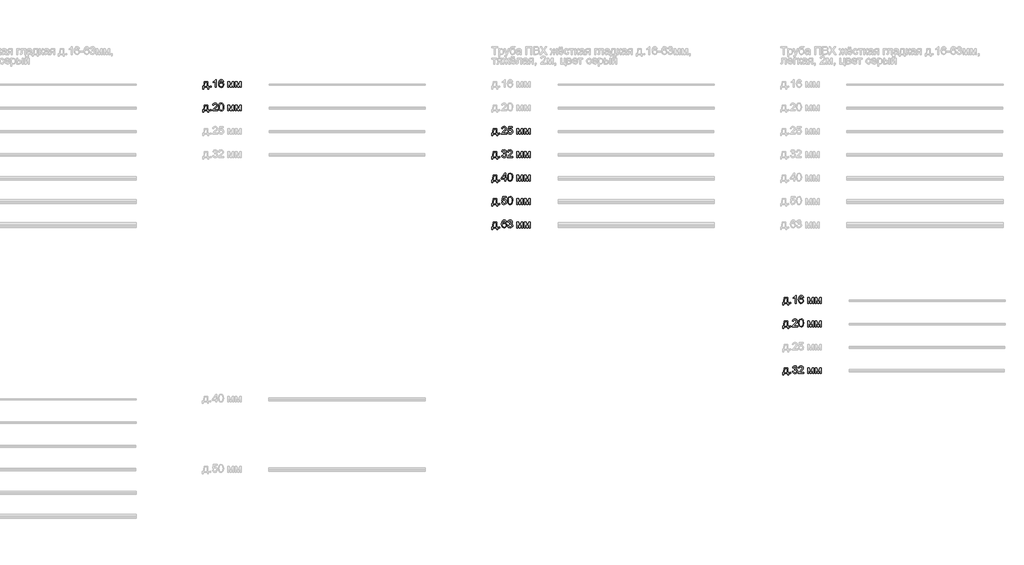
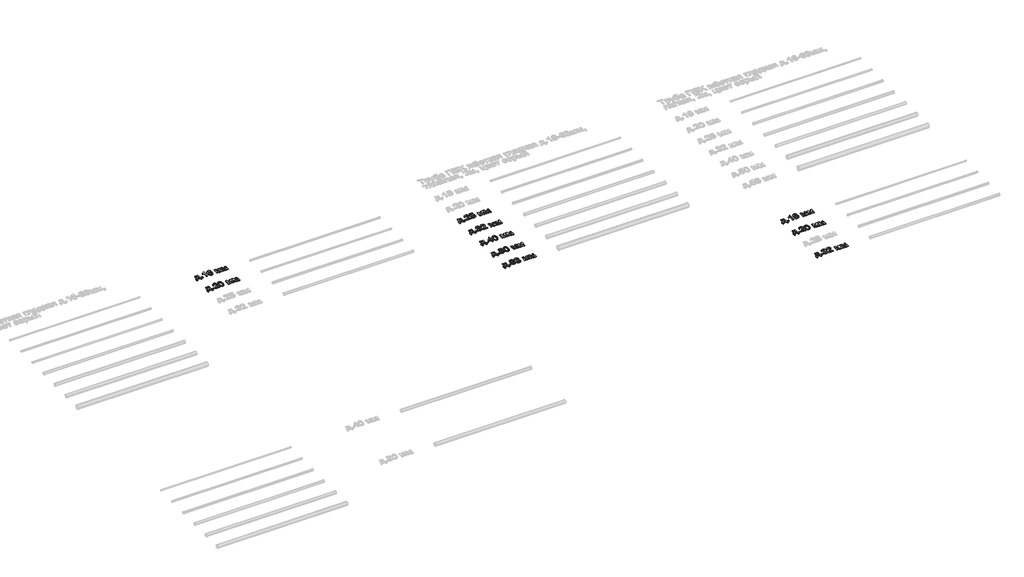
# One storey, part 94 of 98: 10 proxies.
"""IFC4 building model written with IfcOpenShell, lengths in millimetres."""

from ifc_helpers import new_model, si_unit, origin, origin_with_axes, place, context, project, spatial, polyline, outline, extrude, element, save

model = new_model("IFC4")

# Units and contexts
model_context = context("Model", 3, world=origin())
ifc_project = project(units=[si_unit("LENGTHUNIT", "METRE", prefix="MILLI")], contexts=[model_context])

# Site, building, storey
site = spatial("IfcSite", under=ifc_project)
building = spatial("IfcBuilding", under=site)
storey = spatial("IfcBuildingStorey", under=building, Name="Этаж 01", Elevation=0.0)

# Proxies
placement = place(None, origin())
element("IfcBuildingElementProxy", 1, Name="100", ObjectType="100", at=placement, inside=storey, context=model_context, shape_type="SweptSolid", body=[
    extrude(outline(polyline([(7373.0141865, -3563.7647458), (7420.1030819, -3563.7647458), (7420.1030819, -3624.9803098), (7429.520861, -3624.9803098), (7429.520861, -3657.9425366), (7416.9638222, -3657.9425366), (7416.9638222, -3637.5373486), (7365.1660373, -3637.5373486), (7365.1660373, -3657.9425366), (7352.6089985, -3657.9425366), (7352.6089985, -3624.9803098), (7360.4571478, -3624.9803098), (7370.1569697, -3601.031192), (7373.0141865, -3563.7647458)]), holes=[polyline([(7384.0015955, -3576.3217846), (7381.0585395, -3604.9307411), (7374.5838164, -3624.9803098), (7407.5460431, -3624.9803098), (7407.5460431, -3576.3217846), (7384.0015955, -3576.3217846)])]), origin_with_axes(), (0.0, 0.0, 1.0), 10.0),
    extrude(outline(polyline([(7446.7867893, -3637.5373486), (7446.7867893, -3624.9803098), (7459.3438281, -3624.9803098), (7459.3438281, -3637.5373486), (7446.7867893, -3637.5373486)])), origin_with_axes(), (0.0, 0.0, 1.0), 10.0),
    extrude(outline(polyline([(7526.8379114, -3637.5373486), (7514.2808727, -3637.5373486), (7514.2808727, -3559.25206), (7502.3860215, -3567.7256087), (7489.1667951, -3574.0654417), (7489.1667951, -3562.195116), (7507.5731576, -3550.4474176), (7518.7445076, -3537.0810385), (7526.8379114, -3537.0810385), (7526.8379114, -3637.5373486)])), origin_with_axes(), (0.0, 0.0, 1.0), 10.0),
    extrude(outline(polyline([(7621.0157022, -3563.7647458), (7608.4586634, -3565.3343757), (7603.700723, -3554.8620016), (7591.1191587, -3549.6380772), (7579.7883933, -3552.6792351), (7571.2167428, -3564.0958396), (7567.6482874, -3586.4753277), (7578.7215355, -3576.4566747), (7592.4435339, -3573.1825249), (7604.0440795, -3575.4204737), (7613.7806896, -3582.1343201), (7620.3841715, -3592.3920964), (7622.5853321, -3605.2618349), (7618.4405282, -3622.5890769), (7607.0361864, -3634.85181), (7590.5795985, -3639.1069785), (7576.3333682, -3636.2865498), (7564.9872743, -3627.8252639), (7557.5652551, -3612.8892549), (7555.0912487, -3590.644657), (7557.8381009, -3565.6348127), (7566.0786576, -3548.5344312), (7577.3297153, -3539.9443867), (7591.9039737, -3537.0810385), (7602.9220394, -3538.8530034), (7611.7450759, -3544.1688982), (7617.9254935, -3552.61179), (7621.0157022, -3563.7647458)]), holes=[polyline([(7567.6482874, -3605.0656312), (7570.5545552, -3615.9426755), (7578.2800771, -3623.8398757), (7589.5985798, -3626.5499397), (7597.8851218, -3625.1458567), (7604.3996988, -3620.9336079), (7608.6211447, -3614.311732), (7610.0282933, -3605.6787678), (7608.6395388, -3597.3922259), (7604.4732752, -3591.0738526), (7597.8483336, -3587.0731359), (7589.083545, -3585.7395637), (7573.8900186, -3591.0738526), (7569.2087202, -3597.2389417), (7567.6482874, -3605.0656312)])]), origin_with_axes(), (0.0, 0.0, 1.0), 10.0),
    extrude(outline(polyline([(7675.9527468, -3563.7647458), (7697.5596827, -3563.7647458), (7714.2124743, -3622.8220688), (7732.1651157, -3563.7647458), (7752.8646093, -3563.7647458), (7752.8646093, -3637.5373486), (7740.3075705, -3637.5373486), (7740.3075705, -3578.1366691), (7722.2568273, -3637.5373486), (7705.7757139, -3637.5373486), (7688.5097856, -3575.291715), (7688.5097856, -3637.5373486), (7675.9527468, -3637.5373486), (7675.9527468, -3563.7647458)])), origin_with_axes(), (0.0, 0.0, 1.0), 10.0),
    extrude(outline(polyline([(7771.7001674, -3563.7647458), (7793.3071033, -3563.7647458), (7809.9598949, -3622.8220688), (7827.9125363, -3563.7647458), (7848.6120299, -3563.7647458), (7848.6120299, -3637.5373486), (7836.0549911, -3637.5373486), (7836.0549911, -3578.1366691), (7818.0042479, -3637.5373486), (7801.5231345, -3637.5373486), (7784.2572062, -3575.291715), (7784.2572062, -3637.5373486), (7771.7001674, -3637.5373486), (7771.7001674, -3563.7647458)])), origin_with_axes(), (0.0, 0.0, 1.0), 10.0),
])
element("IfcBuildingElementProxy", 2, Name="100", ObjectType="100", at=placement, inside=storey, context=model_context, shape_type="SweptSolid", body=[
    extrude(outline(polyline([(7373.0141865, -3863.7647458), (7420.1030819, -3863.7647458), (7420.1030819, -3924.9803098), (7429.520861, -3924.9803098), (7429.520861, -3957.9425366), (7416.9638222, -3957.9425366), (7416.9638222, -3937.5373486), (7365.1660373, -3937.5373486), (7365.1660373, -3957.9425366), (7352.6089985, -3957.9425366), (7352.6089985, -3924.9803098), (7360.4571478, -3924.9803098), (7370.1569697, -3901.031192), (7373.0141865, -3863.7647458)]), holes=[polyline([(7384.0015955, -3876.3217846), (7381.0585395, -3904.9307411), (7374.5838164, -3924.9803098), (7407.5460431, -3924.9803098), (7407.5460431, -3876.3217846), (7384.0015955, -3876.3217846)])]), origin_with_axes(), (0.0, 0.0, 1.0), 10.0),
    extrude(outline(polyline([(7446.7867893, -3937.5373486), (7446.7867893, -3924.9803098), (7459.3438281, -3924.9803098), (7459.3438281, -3937.5373486), (7446.7867893, -3937.5373486)])), origin_with_axes(), (0.0, 0.0, 1.0), 10.0),
    extrude(outline(polyline([(7544.1038398, -3924.9803098), (7544.1038398, -3937.5373486), (7478.1793862, -3937.5373486), (7479.5282869, -3928.879859), (7487.1557069, -3915.550268), (7502.8765308, -3900.9944038), (7524.5570431, -3880.074181), (7529.9771711, -3865.8494105), (7524.8636114, -3854.334704), (7511.509495, -3849.6380772), (7497.5912928, -3854.2243394), (7492.3060548, -3866.9040055), (7479.7490161, -3865.3343757), (7482.7932396, -3853.1881385), (7489.3752616, -3844.316051), (7499.1517256, -3838.8897916), (7511.7792751, -3837.0810385), (7524.4987951, -3839.0921267), (7534.256865, -3845.1253914), (7540.4648737, -3854.1385003), (7542.5342099, -3865.089121), (7540.3023925, -3876.9962349), (7532.8834389, -3889.308019), (7514.8940093, -3906.5126337), (7500.4485097, -3918.5914259), (7494.7831269, -3924.9803098), (7544.1038398, -3924.9803098)])), origin_with_axes(), (0.0, 0.0, 1.0), 10.0),
    extrude(outline(polyline([(7556.6608785, -3888.1185339), (7560.3519612, -3859.2152718), (7571.3148447, -3842.5502175), (7589.6231053, -3837.0810385), (7604.2893342, -3840.3184), (7614.4183518, -3849.65034), (7620.3044637, -3864.5127726), (7622.5853321, -3888.1185339), (7618.9310376, -3916.8991687), (7608.0049423, -3933.6010113), (7599.7735827, -3937.7304867), (7589.6231053, -3939.1069785), (7576.5755572, -3936.7157455), (7566.6672688, -3929.5420466), (7559.1624761, -3912.5520298), (7556.6608785, -3888.1185339)]), holes=[polyline([(7569.2179173, -3888.0940085), (7570.6894453, -3907.8462059), (7575.1040292, -3919.2781389), (7581.6768542, -3924.7319895), (7589.6231053, -3926.5499397), (7597.5693564, -3924.7258581), (7604.1421814, -3919.2536135), (7608.5567653, -3907.8155491), (7610.0282933, -3888.0940085), (7608.6058162, -3868.7863351), (7604.3383851, -3857.2654973), (7597.7778228, -3851.5449322), (7589.4759525, -3849.6380772), (7581.6155405, -3851.3180717), (7575.3002329, -3856.358055), (7570.7384962, -3868.5962627), (7569.2179173, -3888.0940085)])]), origin_with_axes(), (0.0, 0.0, 1.0), 10.0),
    extrude(outline(polyline([(7675.9527468, -3863.7647458), (7697.5596827, -3863.7647458), (7714.2124743, -3922.8220688), (7732.1651157, -3863.7647458), (7752.8646093, -3863.7647458), (7752.8646093, -3937.5373486), (7740.3075705, -3937.5373486), (7740.3075705, -3878.1366691), (7722.2568273, -3937.5373486), (7705.7757139, -3937.5373486), (7688.5097856, -3875.291715), (7688.5097856, -3937.5373486), (7675.9527468, -3937.5373486), (7675.9527468, -3863.7647458)])), origin_with_axes(), (0.0, 0.0, 1.0), 10.0),
    extrude(outline(polyline([(7771.7001674, -3863.7647458), (7793.3071033, -3863.7647458), (7809.9598949, -3922.8220688), (7827.9125363, -3863.7647458), (7848.6120299, -3863.7647458), (7848.6120299, -3937.5373486), (7836.0549911, -3937.5373486), (7836.0549911, -3878.1366691), (7818.0042479, -3937.5373486), (7801.5231345, -3937.5373486), (7784.2572062, -3875.291715), (7784.2572062, -3937.5373486), (7771.7001674, -3937.5373486), (7771.7001674, -3863.7647458)])), origin_with_axes(), (0.0, 0.0, 1.0), 10.0),
])
element("IfcBuildingElementProxy", 3, Name="100", ObjectType="100", at=placement, inside=storey, context=model_context, shape_type="SweptSolid", body=[
    extrude(outline(polyline([(11073.0141865, -4163.7647458), (11120.1030819, -4163.7647458), (11120.1030819, -4224.9803098), (11129.520861, -4224.9803098), (11129.520861, -4257.9425366), (11116.9638222, -4257.9425366), (11116.9638222, -4237.5373486), (11065.1660373, -4237.5373486), (11065.1660373, -4257.9425366), (11052.6089985, -4257.9425366), (11052.6089985, -4224.9803098), (11060.4571478, -4224.9803098), (11070.1569697, -4201.031192), (11073.0141865, -4163.7647458)]), holes=[polyline([(11084.0015955, -4176.3217846), (11081.0585395, -4204.9307411), (11074.5838164, -4224.9803098), (11107.5460431, -4224.9803098), (11107.5460431, -4176.3217846), (11084.0015955, -4176.3217846)])]), origin_with_axes(), (0.0, 0.0, 1.0), 10.0),
    extrude(outline(polyline([(11146.7867893, -4237.5373486), (11146.7867893, -4224.9803098), (11159.3438281, -4224.9803098), (11159.3438281, -4237.5373486), (11146.7867893, -4237.5373486)])), origin_with_axes(), (0.0, 0.0, 1.0), 10.0),
    extrude(outline(polyline([(11244.1038398, -4224.9803098), (11244.1038398, -4237.5373486), (11178.1793862, -4237.5373486), (11179.5282869, -4228.879859), (11187.1557069, -4215.550268), (11202.8765308, -4200.9944038), (11224.5570431, -4180.074181), (11229.9771711, -4165.8494105), (11224.8636114, -4154.334704), (11211.509495, -4149.6380772), (11197.5912928, -4154.2243394), (11192.3060548, -4166.9040055), (11179.7490161, -4165.3343757), (11182.7932396, -4153.1881385), (11189.3752616, -4144.316051), (11199.1517256, -4138.8897916), (11211.7792751, -4137.0810385), (11224.4987951, -4139.0921267), (11234.256865, -4145.1253914), (11240.4648737, -4154.1385003), (11242.5342099, -4165.089121), (11240.3023925, -4176.9962349), (11232.8834389, -4189.308019), (11214.8940093, -4206.5126337), (11200.4485097, -4218.5914259), (11194.7831269, -4224.9803098), (11244.1038398, -4224.9803098)])), origin_with_axes(), (0.0, 0.0, 1.0), 10.0),
    extrude(outline(polyline([(11256.6608785, -4210.8536412), (11269.2179173, -4209.2840114), (11275.5454876, -4222.2211949), (11288.6666121, -4226.5499397), (11297.6674583, -4225.0446892), (11304.4119615, -4220.5289377), (11308.6242103, -4213.5238514), (11310.0282933, -4204.5505964), (11304.7675808, -4189.6391128), (11298.1610333, -4185.5372286), (11288.8628158, -4184.1699338), (11277.8386187, -4186.3527004), (11270.7875471, -4192.0180831), (11258.2305084, -4190.4484532), (11269.2179173, -4138.6506683), (11317.8764425, -4138.6506683), (11317.8764425, -4151.2077071), (11279.3714604, -4151.2077071), (11274.0003832, -4178.8724331), (11282.9705725, -4173.4277796), (11292.3699575, -4171.6128951), (11304.1023275, -4173.8631066), (11313.8420033, -4180.6137412), (11320.3994999, -4190.9021744), (11322.5853321, -4203.7657815), (11320.6171634, -4216.3228202), (11314.7126574, -4227.0649745), (11303.4064174, -4236.0964775), (11288.6175612, -4239.1069785), (11276.2843173, -4237.1725323), (11266.4588023, -4231.3691938), (11259.7234961, -4222.3714134), (11256.6608785, -4210.8536412)])), origin_with_axes(), (0.0, 0.0, 1.0), 10.0),
    extrude(outline(polyline([(11375.9527468, -4163.7647458), (11397.5596827, -4163.7647458), (11414.2124743, -4222.8220688), (11432.1651157, -4163.7647458), (11452.8646093, -4163.7647458), (11452.8646093, -4237.5373486), (11440.3075705, -4237.5373486), (11440.3075705, -4178.1366691), (11422.2568273, -4237.5373486), (11405.7757139, -4237.5373486), (11388.5097856, -4175.291715), (11388.5097856, -4237.5373486), (11375.9527468, -4237.5373486), (11375.9527468, -4163.7647458)])), origin_with_axes(), (0.0, 0.0, 1.0), 10.0),
    extrude(outline(polyline([(11471.7001674, -4163.7647458), (11493.3071033, -4163.7647458), (11509.9598949, -4222.8220688), (11527.9125363, -4163.7647458), (11548.6120299, -4163.7647458), (11548.6120299, -4237.5373486), (11536.0549911, -4237.5373486), (11536.0549911, -4178.1366691), (11518.0042479, -4237.5373486), (11501.5231345, -4237.5373486), (11484.2572062, -4175.291715), (11484.2572062, -4237.5373486), (11471.7001674, -4237.5373486), (11471.7001674, -4163.7647458)])), origin_with_axes(), (0.0, 0.0, 1.0), 10.0),
])
element("IfcBuildingElementProxy", 4, Name="100", ObjectType="100", at=placement, inside=storey, context=model_context, shape_type="SweptSolid", body=[
    extrude(outline(polyline([(11073.0141865, -4463.7647458), (11120.1030819, -4463.7647458), (11120.1030819, -4524.9803098), (11129.520861, -4524.9803098), (11129.520861, -4557.9425366), (11116.9638222, -4557.9425366), (11116.9638222, -4537.5373486), (11065.1660373, -4537.5373486), (11065.1660373, -4557.9425366), (11052.6089985, -4557.9425366), (11052.6089985, -4524.9803098), (11060.4571478, -4524.9803098), (11070.1569697, -4501.031192), (11073.0141865, -4463.7647458)]), holes=[polyline([(11084.0015955, -4476.3217846), (11081.0585395, -4504.9307411), (11074.5838164, -4524.9803098), (11107.5460431, -4524.9803098), (11107.5460431, -4476.3217846), (11084.0015955, -4476.3217846)])]), origin_with_axes(), (0.0, 0.0, 1.0), 10.0),
    extrude(outline(polyline([(11146.7867893, -4537.5373486), (11146.7867893, -4524.9803098), (11159.3438281, -4524.9803098), (11159.3438281, -4537.5373486), (11146.7867893, -4537.5373486)])), origin_with_axes(), (0.0, 0.0, 1.0), 10.0),
    extrude(outline(polyline([(11179.7490161, -4510.8536412), (11192.3060548, -4509.2840114), (11199.2344991, -4522.5032377), (11212.196208, -4526.5499397), (11220.8046467, -4525.1581195), (11227.4510481, -4520.9826588), (11233.1164308, -4507.1993467), (11227.500099, -4494.2131123), (11213.2262776, -4489.0750271), (11204.4216352, -4490.4484532), (11205.8195868, -4477.8914145), (11207.830675, -4478.0385673), (11222.079971, -4474.4333237), (11226.8256487, -4469.8593242), (11228.4075413, -4463.3478129), (11223.8212791, -4453.5253636), (11212.0000043, -4449.6380772), (11200.0315767, -4453.5621518), (11193.8756847, -4465.3343757), (11181.3186459, -4463.7647458), (11185.01586, -4452.4891627), (11191.5948163, -4444.0707964), (11200.5956625, -4438.8284779), (11211.5585459, -4437.0810385), (11226.7030214, -4440.5268665), (11237.2980228, -4449.9446456), (11240.9645801, -4462.6120489), (11237.4819638, -4474.188069), (11227.181268, -4482.5022021), (11240.8664782, -4491.0861154), (11245.6734696, -4507.4200759), (11243.2699739, -4519.6582836), (11236.0594868, -4529.8854031), (11225.1763111, -4536.8015846), (11211.7547496, -4539.1069785), (11199.6146438, -4537.1388098), (11189.7308809, -4531.2343038), (11182.8576189, -4522.2028008), (11179.7490161, -4510.8536412)])), origin_with_axes(), (0.0, 0.0, 1.0), 10.0),
    extrude(outline(polyline([(11321.0157022, -4524.9803098), (11321.0157022, -4537.5373486), (11255.0912487, -4537.5373486), (11256.4401493, -4528.879859), (11264.0675694, -4515.550268), (11279.7883933, -4500.9944038), (11301.4689055, -4480.074181), (11306.8890336, -4465.8494105), (11301.7754739, -4454.334704), (11288.4213574, -4449.6380772), (11274.5031553, -4454.2243394), (11269.2179173, -4466.9040055), (11256.6608785, -4465.3343757), (11259.705102, -4453.1881385), (11266.2871241, -4444.316051), (11276.0635881, -4438.8897916), (11288.6911376, -4437.0810385), (11301.4106576, -4439.0921267), (11311.1687275, -4445.1253914), (11317.3767361, -4454.1385003), (11319.4460724, -4465.089121), (11317.2142549, -4476.9962349), (11309.7953014, -4489.308019), (11291.8058718, -4506.5126337), (11277.3603721, -4518.5914259), (11271.6949894, -4524.9803098), (11321.0157022, -4524.9803098)])), origin_with_axes(), (0.0, 0.0, 1.0), 10.0),
    extrude(outline(polyline([(11375.9527468, -4463.7647458), (11397.5596827, -4463.7647458), (11414.2124743, -4522.8220688), (11432.1651157, -4463.7647458), (11452.8646093, -4463.7647458), (11452.8646093, -4537.5373486), (11440.3075705, -4537.5373486), (11440.3075705, -4478.1366691), (11422.2568273, -4537.5373486), (11405.7757139, -4537.5373486), (11388.5097856, -4475.291715), (11388.5097856, -4537.5373486), (11375.9527468, -4537.5373486), (11375.9527468, -4463.7647458)])), origin_with_axes(), (0.0, 0.0, 1.0), 10.0),
    extrude(outline(polyline([(11471.7001674, -4463.7647458), (11493.3071033, -4463.7647458), (11509.9598949, -4522.8220688), (11527.9125363, -4463.7647458), (11548.6120299, -4463.7647458), (11548.6120299, -4537.5373486), (11536.0549911, -4537.5373486), (11536.0549911, -4478.1366691), (11518.0042479, -4537.5373486), (11501.5231345, -4537.5373486), (11484.2572062, -4475.291715), (11484.2572062, -4537.5373486), (11471.7001674, -4537.5373486), (11471.7001674, -4463.7647458)])), origin_with_axes(), (0.0, 0.0, 1.0), 10.0),
])
element("IfcBuildingElementProxy", 5, Name="100", ObjectType="100", at=placement, inside=storey, context=model_context, shape_type="SweptSolid", body=[
    extrude(outline(polyline([(11073.0141865, -4763.7647458), (11120.1030819, -4763.7647458), (11120.1030819, -4824.9803098), (11129.520861, -4824.9803098), (11129.520861, -4857.9425366), (11116.9638222, -4857.9425366), (11116.9638222, -4837.5373486), (11065.1660373, -4837.5373486), (11065.1660373, -4857.9425366), (11052.6089985, -4857.9425366), (11052.6089985, -4824.9803098), (11060.4571478, -4824.9803098), (11070.1569697, -4801.031192), (11073.0141865, -4763.7647458)]), holes=[polyline([(11084.0015955, -4776.3217846), (11081.0585395, -4804.9307411), (11074.5838164, -4824.9803098), (11107.5460431, -4824.9803098), (11107.5460431, -4776.3217846), (11084.0015955, -4776.3217846)])]), origin_with_axes(), (0.0, 0.0, 1.0), 10.0),
    extrude(outline(polyline([(11146.7867893, -4837.5373486), (11146.7867893, -4824.9803098), (11159.3438281, -4824.9803098), (11159.3438281, -4837.5373486), (11146.7867893, -4837.5373486)])), origin_with_axes(), (0.0, 0.0, 1.0), 10.0),
    extrude(outline(polyline([(11220.5593921, -4837.5373486), (11220.5593921, -4813.9929009), (11175.0401265, -4813.9929009), (11175.0401265, -4801.4358622), (11223.6986518, -4738.6506683), (11233.1164308, -4738.6506683), (11233.1164308, -4801.4358622), (11245.6734696, -4801.4358622), (11245.6734696, -4813.9929009), (11233.1164308, -4813.9929009), (11233.1164308, -4837.5373486), (11220.5593921, -4837.5373486)]), holes=[polyline([(11220.5593921, -4801.4358622), (11220.5593921, -4762.6365744), (11190.4911703, -4801.4358622), (11220.5593921, -4801.4358622)])]), origin_with_axes(), (0.0, 0.0, 1.0), 10.0),
    extrude(outline(polyline([(11256.6608785, -4788.1185339), (11260.3519612, -4759.2152718), (11271.3148447, -4742.5502175), (11289.6231053, -4737.0810385), (11304.2893342, -4740.3184), (11314.4183518, -4749.65034), (11320.3044637, -4764.5127726), (11322.5853321, -4788.1185339), (11318.9310376, -4816.8991687), (11308.0049423, -4833.6010113), (11299.7735827, -4837.7304867), (11289.6231053, -4839.1069785), (11276.5755572, -4836.7157455), (11266.6672688, -4829.5420466), (11259.1624761, -4812.5520298), (11256.6608785, -4788.1185339)]), holes=[polyline([(11269.2179173, -4788.0940085), (11270.6894453, -4807.8462059), (11275.1040292, -4819.2781389), (11281.6768542, -4824.7319895), (11289.6231053, -4826.5499397), (11297.5693564, -4824.7258581), (11304.1421814, -4819.2536135), (11308.5567653, -4807.8155491), (11310.0282933, -4788.0940085), (11308.6058162, -4768.7863351), (11304.3383851, -4757.2654973), (11297.7778228, -4751.5449322), (11289.4759525, -4749.6380772), (11281.6155405, -4751.3180717), (11275.3002329, -4756.358055), (11270.7384962, -4768.5962627), (11269.2179173, -4788.0940085)])]), origin_with_axes(), (0.0, 0.0, 1.0), 10.0),
    extrude(outline(polyline([(11375.9527468, -4763.7647458), (11397.5596827, -4763.7647458), (11414.2124743, -4822.8220688), (11432.1651157, -4763.7647458), (11452.8646093, -4763.7647458), (11452.8646093, -4837.5373486), (11440.3075705, -4837.5373486), (11440.3075705, -4778.1366691), (11422.2568273, -4837.5373486), (11405.7757139, -4837.5373486), (11388.5097856, -4775.291715), (11388.5097856, -4837.5373486), (11375.9527468, -4837.5373486), (11375.9527468, -4763.7647458)])), origin_with_axes(), (0.0, 0.0, 1.0), 10.0),
    extrude(outline(polyline([(11471.7001674, -4763.7647458), (11493.3071033, -4763.7647458), (11509.9598949, -4822.8220688), (11527.9125363, -4763.7647458), (11548.6120299, -4763.7647458), (11548.6120299, -4837.5373486), (11536.0549911, -4837.5373486), (11536.0549911, -4778.1366691), (11518.0042479, -4837.5373486), (11501.5231345, -4837.5373486), (11484.2572062, -4775.291715), (11484.2572062, -4837.5373486), (11471.7001674, -4837.5373486), (11471.7001674, -4763.7647458)])), origin_with_axes(), (0.0, 0.0, 1.0), 10.0),
])
element("IfcBuildingElementProxy", 6, Name="100", ObjectType="100", at=placement, inside=storey, context=model_context, shape_type="SweptSolid", body=[
    extrude(outline(polyline([(11073.0141865, -5063.7647458), (11120.1030819, -5063.7647458), (11120.1030819, -5124.9803098), (11129.520861, -5124.9803098), (11129.520861, -5157.9425366), (11116.9638222, -5157.9425366), (11116.9638222, -5137.5373486), (11065.1660373, -5137.5373486), (11065.1660373, -5157.9425366), (11052.6089985, -5157.9425366), (11052.6089985, -5124.9803098), (11060.4571478, -5124.9803098), (11070.1569697, -5101.031192), (11073.0141865, -5063.7647458)]), holes=[polyline([(11084.0015955, -5076.3217846), (11081.0585395, -5104.9307411), (11074.5838164, -5124.9803098), (11107.5460431, -5124.9803098), (11107.5460431, -5076.3217846), (11084.0015955, -5076.3217846)])]), origin_with_axes(), (0.0, 0.0, 1.0), 10.0),
    extrude(outline(polyline([(11146.7867893, -5137.5373486), (11146.7867893, -5124.9803098), (11159.3438281, -5124.9803098), (11159.3438281, -5137.5373486), (11146.7867893, -5137.5373486)])), origin_with_axes(), (0.0, 0.0, 1.0), 10.0),
    extrude(outline(polyline([(11179.7490161, -5110.8536412), (11192.3060548, -5109.2840114), (11198.6336251, -5122.2211949), (11211.7547496, -5126.5499397), (11220.7555958, -5125.0446892), (11227.500099, -5120.5289377), (11231.7123479, -5113.5238514), (11233.1164308, -5104.5505964), (11227.8557183, -5089.6391128), (11221.2491708, -5085.5372286), (11211.9509534, -5084.1699338), (11200.9267563, -5086.3527004), (11193.8756847, -5092.0180831), (11181.3186459, -5090.4484532), (11192.3060548, -5038.6506683), (11240.9645801, -5038.6506683), (11240.9645801, -5051.2077071), (11202.4595979, -5051.2077071), (11197.0885208, -5078.8724331), (11206.0587101, -5073.4277796), (11215.4580951, -5071.6128951), (11227.190465, -5073.8631066), (11236.9301408, -5080.6137412), (11243.4876374, -5090.9021744), (11245.6734696, -5103.7657815), (11243.7053009, -5116.3228202), (11237.8007949, -5127.0649745), (11226.4945549, -5136.0964775), (11211.7056987, -5139.1069785), (11199.3724548, -5137.1725323), (11189.5469399, -5131.3691938), (11182.8116337, -5122.3714134), (11179.7490161, -5110.8536412)])), origin_with_axes(), (0.0, 0.0, 1.0), 10.0),
    extrude(outline(polyline([(11256.6608785, -5088.1185339), (11260.3519612, -5059.2152718), (11271.3148447, -5042.5502175), (11289.6231053, -5037.0810385), (11304.2893342, -5040.3184), (11314.4183518, -5049.65034), (11320.3044637, -5064.5127726), (11322.5853321, -5088.1185339), (11318.9310376, -5116.8991687), (11308.0049423, -5133.6010113), (11299.7735827, -5137.7304867), (11289.6231053, -5139.1069785), (11276.5755572, -5136.7157455), (11266.6672688, -5129.5420466), (11259.1624761, -5112.5520298), (11256.6608785, -5088.1185339)]), holes=[polyline([(11269.2179173, -5088.0940085), (11270.6894453, -5107.8462059), (11275.1040292, -5119.2781389), (11281.6768542, -5124.7319895), (11289.6231053, -5126.5499397), (11297.5693564, -5124.7258581), (11304.1421814, -5119.2536135), (11308.5567653, -5107.8155491), (11310.0282933, -5088.0940085), (11308.6058162, -5068.7863351), (11304.3383851, -5057.2654973), (11297.7778228, -5051.5449322), (11289.4759525, -5049.6380772), (11281.6155405, -5051.3180717), (11275.3002329, -5056.358055), (11270.7384962, -5068.5962627), (11269.2179173, -5088.0940085)])]), origin_with_axes(), (0.0, 0.0, 1.0), 10.0),
    extrude(outline(polyline([(11375.9527468, -5063.7647458), (11397.5596827, -5063.7647458), (11414.2124743, -5122.8220688), (11432.1651157, -5063.7647458), (11452.8646093, -5063.7647458), (11452.8646093, -5137.5373486), (11440.3075705, -5137.5373486), (11440.3075705, -5078.1366691), (11422.2568273, -5137.5373486), (11405.7757139, -5137.5373486), (11388.5097856, -5075.291715), (11388.5097856, -5137.5373486), (11375.9527468, -5137.5373486), (11375.9527468, -5063.7647458)])), origin_with_axes(), (0.0, 0.0, 1.0), 10.0),
    extrude(outline(polyline([(11471.7001674, -5063.7647458), (11493.3071033, -5063.7647458), (11509.9598949, -5122.8220688), (11527.9125363, -5063.7647458), (11548.6120299, -5063.7647458), (11548.6120299, -5137.5373486), (11536.0549911, -5137.5373486), (11536.0549911, -5078.1366691), (11518.0042479, -5137.5373486), (11501.5231345, -5137.5373486), (11484.2572062, -5075.291715), (11484.2572062, -5137.5373486), (11471.7001674, -5137.5373486), (11471.7001674, -5063.7647458)])), origin_with_axes(), (0.0, 0.0, 1.0), 10.0),
])
element("IfcBuildingElementProxy", 7, Name="100", ObjectType="100", at=placement, inside=storey, context=model_context, shape_type="SweptSolid", body=[
    extrude(outline(polyline([(11073.0141865, -5363.7647458), (11120.1030819, -5363.7647458), (11120.1030819, -5424.9803098), (11129.520861, -5424.9803098), (11129.520861, -5457.9425366), (11116.9638222, -5457.9425366), (11116.9638222, -5437.5373486), (11065.1660373, -5437.5373486), (11065.1660373, -5457.9425366), (11052.6089985, -5457.9425366), (11052.6089985, -5424.9803098), (11060.4571478, -5424.9803098), (11070.1569697, -5401.031192), (11073.0141865, -5363.7647458)]), holes=[polyline([(11084.0015955, -5376.3217846), (11081.0585395, -5404.9307411), (11074.5838164, -5424.9803098), (11107.5460431, -5424.9803098), (11107.5460431, -5376.3217846), (11084.0015955, -5376.3217846)])]), origin_with_axes(), (0.0, 0.0, 1.0), 10.0),
    extrude(outline(polyline([(11146.7867893, -5437.5373486), (11146.7867893, -5424.9803098), (11159.3438281, -5424.9803098), (11159.3438281, -5437.5373486), (11146.7867893, -5437.5373486)])), origin_with_axes(), (0.0, 0.0, 1.0), 10.0),
    extrude(outline(polyline([(11244.1038398, -5363.7647458), (11231.546801, -5365.3343757), (11226.7888605, -5354.8620016), (11214.2072963, -5349.6380772), (11202.8765308, -5352.6792351), (11194.3048803, -5364.0958396), (11190.736425, -5386.4753277), (11201.809673, -5376.4566747), (11215.5316715, -5373.1825249), (11227.132217, -5375.4204737), (11236.8688272, -5382.1343201), (11243.472309, -5392.3920964), (11245.6734696, -5405.2618349), (11241.5286658, -5422.5890769), (11230.1243239, -5434.85181), (11213.667736, -5439.1069785), (11199.4215058, -5436.2865498), (11188.0754119, -5427.8252639), (11180.6533926, -5412.8892549), (11178.1793862, -5390.644657), (11180.9262384, -5365.6348127), (11189.1667951, -5348.5344312), (11200.4178528, -5339.9443867), (11214.9921112, -5337.0810385), (11226.010177, -5338.8530034), (11234.8332135, -5344.1688982), (11241.013631, -5352.61179), (11244.1038398, -5363.7647458)]), holes=[polyline([(11190.736425, -5405.0656312), (11193.6426927, -5415.9426755), (11201.3682146, -5423.8398757), (11212.6867174, -5426.5499397), (11220.9732593, -5425.1458567), (11227.4878363, -5420.9336079), (11231.7092822, -5414.311732), (11233.1164308, -5405.6787678), (11231.7276763, -5397.3922259), (11227.5614127, -5391.0738526), (11220.9364711, -5387.0731359), (11212.1716826, -5385.7395637), (11196.9781562, -5391.0738526), (11192.2968578, -5397.2389417), (11190.736425, -5405.0656312)])]), origin_with_axes(), (0.0, 0.0, 1.0), 10.0),
    extrude(outline(polyline([(11256.6608785, -5410.8536412), (11269.2179173, -5409.2840114), (11276.1463615, -5422.5032377), (11289.1080705, -5426.5499397), (11297.7165092, -5425.1581195), (11304.3629106, -5420.9826588), (11310.0282933, -5407.1993467), (11304.4119615, -5394.2131123), (11290.1381401, -5389.0750271), (11281.3334977, -5390.4484532), (11282.7314492, -5377.8914145), (11284.7425375, -5378.0385673), (11298.9918334, -5374.4333237), (11303.7375112, -5369.8593242), (11305.3194038, -5363.3478129), (11300.7331415, -5353.5253636), (11288.9118668, -5349.6380772), (11276.9434392, -5353.5621518), (11270.7875471, -5365.3343757), (11258.2305084, -5363.7647458), (11261.9277224, -5352.4891627), (11268.5066788, -5344.0707964), (11277.5075249, -5338.8284779), (11288.4704084, -5337.0810385), (11303.6148838, -5340.5268665), (11314.2098853, -5349.9446456), (11317.8764425, -5362.6120489), (11314.3938263, -5374.188069), (11304.0931304, -5382.5022021), (11317.7783407, -5391.0861154), (11322.5853321, -5407.4200759), (11320.1818364, -5419.6582836), (11312.9713493, -5429.8854031), (11302.0881736, -5436.8015846), (11288.6666121, -5439.1069785), (11276.5265063, -5437.1388098), (11266.6427433, -5431.2343038), (11259.7694814, -5422.2028008), (11256.6608785, -5410.8536412)])), origin_with_axes(), (0.0, 0.0, 1.0), 10.0),
    extrude(outline(polyline([(11375.9527468, -5363.7647458), (11397.5596827, -5363.7647458), (11414.2124743, -5422.8220688), (11432.1651157, -5363.7647458), (11452.8646093, -5363.7647458), (11452.8646093, -5437.5373486), (11440.3075705, -5437.5373486), (11440.3075705, -5378.1366691), (11422.2568273, -5437.5373486), (11405.7757139, -5437.5373486), (11388.5097856, -5375.291715), (11388.5097856, -5437.5373486), (11375.9527468, -5437.5373486), (11375.9527468, -5363.7647458)])), origin_with_axes(), (0.0, 0.0, 1.0), 10.0),
    extrude(outline(polyline([(11471.7001674, -5363.7647458), (11493.3071033, -5363.7647458), (11509.9598949, -5422.8220688), (11527.9125363, -5363.7647458), (11548.6120299, -5363.7647458), (11548.6120299, -5437.5373486), (11536.0549911, -5437.5373486), (11536.0549911, -5378.1366691), (11518.0042479, -5437.5373486), (11501.5231345, -5437.5373486), (11484.2572062, -5375.291715), (11484.2572062, -5437.5373486), (11471.7001674, -5437.5373486), (11471.7001674, -5363.7647458)])), origin_with_axes(), (0.0, 0.0, 1.0), 10.0),
])
element("IfcBuildingElementProxy", 8, Name="100", ObjectType="100", at=placement, inside=storey, context=model_context, shape_type="SweptSolid", body=[
    extrude(outline(polyline([(14799.2908403, -6332.1138523), (14846.3797357, -6332.1138523), (14846.3797357, -6393.3294163), (14855.7975148, -6393.3294163), (14855.7975148, -6426.2916431), (14843.240476, -6426.2916431), (14843.240476, -6405.8864551), (14791.4426911, -6405.8864551), (14791.4426911, -6426.2916431), (14778.8856523, -6426.2916431), (14778.8856523, -6393.3294163), (14786.7338015, -6393.3294163), (14796.4336235, -6369.3802985), (14799.2908403, -6332.1138523)]), holes=[polyline([(14810.2782492, -6344.6708911), (14807.3351933, -6373.2798476), (14800.8604702, -6393.3294163), (14833.8226969, -6393.3294163), (14833.8226969, -6344.6708911), (14810.2782492, -6344.6708911)])]), origin_with_axes(), (0.0, 0.0, 1.0), 10.0),
    extrude(outline(polyline([(14873.0634431, -6405.8864551), (14873.0634431, -6393.3294163), (14885.6204818, -6393.3294163), (14885.6204818, -6405.8864551), (14873.0634431, -6405.8864551)])), origin_with_axes(), (0.0, 0.0, 1.0), 10.0),
    extrude(outline(polyline([(14953.1145652, -6405.8864551), (14940.5575265, -6405.8864551), (14940.5575265, -6327.6011665), (14928.6626753, -6336.0747152), (14915.4434489, -6342.4145482), (14915.4434489, -6330.5442225), (14933.8498114, -6318.7965241), (14945.0211613, -6305.430145), (14953.1145652, -6305.430145), (14953.1145652, -6405.8864551)])), origin_with_axes(), (0.0, 0.0, 1.0), 10.0),
    extrude(outline(polyline([(15047.292356, -6332.1138523), (15034.7353172, -6333.6834822), (15029.9773768, -6323.2111081), (15017.3958125, -6317.9871837), (15006.0650471, -6321.0283416), (14997.4933966, -6332.4449461), (14993.9249412, -6354.8244342), (15004.9981893, -6344.8057812), (15018.7201877, -6341.5316314), (15030.3207333, -6343.7695802), (15040.0573434, -6350.4834266), (15046.6608252, -6360.7412029), (15048.8619858, -6373.6109414), (15044.717182, -6390.9381834), (15033.3128402, -6403.2009165), (15016.8562523, -6407.456085), (15002.610022, -6404.6356563), (14991.2639281, -6396.1743704), (14983.8419089, -6381.2383614), (14981.3679025, -6358.9937635), (14984.1147547, -6333.9839192), (14992.3553114, -6316.8835377), (15003.6063691, -6308.2934932), (15018.1806274, -6305.430145), (15029.1986932, -6307.2021099), (15038.0217297, -6312.5180047), (15044.2021472, -6320.9608965), (15047.292356, -6332.1138523)]), holes=[polyline([(14993.9249412, -6373.4147377), (14996.831209, -6384.291782), (15004.5567309, -6392.1889822), (15015.8752336, -6394.8990462), (15024.1617755, -6393.4949632), (15030.6763525, -6389.2827144), (15034.8977984, -6382.6608385), (15036.3049471, -6374.0278743), (15034.9161925, -6365.7413324), (15030.7499289, -6359.4229591), (15024.1249873, -6355.4222424), (15015.3601988, -6354.0886702), (15000.1666724, -6359.4229591), (14995.485374, -6365.5880482), (14993.9249412, -6373.4147377)])]), origin_with_axes(), (0.0, 0.0, 1.0), 10.0),
    extrude(outline(polyline([(15102.2294006, -6332.1138523), (15123.8363365, -6332.1138523), (15140.4891281, -6391.1711753), (15158.4417695, -6332.1138523), (15179.1412631, -6332.1138523), (15179.1412631, -6405.8864551), (15166.5842243, -6405.8864551), (15166.5842243, -6346.4857756), (15148.5334811, -6405.8864551), (15132.0523677, -6405.8864551), (15114.7864394, -6343.6408215), (15114.7864394, -6405.8864551), (15102.2294006, -6405.8864551), (15102.2294006, -6332.1138523)])), origin_with_axes(), (0.0, 0.0, 1.0), 10.0),
    extrude(outline(polyline([(15197.9768212, -6332.1138523), (15219.5837571, -6332.1138523), (15236.2365487, -6391.1711753), (15254.1891901, -6332.1138523), (15274.8886837, -6332.1138523), (15274.8886837, -6405.8864551), (15262.3316449, -6405.8864551), (15262.3316449, -6346.4857756), (15244.2809017, -6405.8864551), (15227.7997883, -6405.8864551), (15210.53386, -6343.6408215), (15210.53386, -6405.8864551), (15197.9768212, -6405.8864551), (15197.9768212, -6332.1138523)])), origin_with_axes(), (0.0, 0.0, 1.0), 10.0),
])
element("IfcBuildingElementProxy", 9, Name="100", ObjectType="100", at=placement, inside=storey, context=model_context, shape_type="SweptSolid", body=[
    extrude(outline(polyline([(14799.2908403, -6632.1138523), (14846.3797357, -6632.1138523), (14846.3797357, -6693.3294163), (14855.7975148, -6693.3294163), (14855.7975148, -6726.2916431), (14843.240476, -6726.2916431), (14843.240476, -6705.8864551), (14791.4426911, -6705.8864551), (14791.4426911, -6726.2916431), (14778.8856523, -6726.2916431), (14778.8856523, -6693.3294163), (14786.7338015, -6693.3294163), (14796.4336235, -6669.3802985), (14799.2908403, -6632.1138523)]), holes=[polyline([(14810.2782492, -6644.6708911), (14807.3351933, -6673.2798476), (14800.8604702, -6693.3294163), (14833.8226969, -6693.3294163), (14833.8226969, -6644.6708911), (14810.2782492, -6644.6708911)])]), origin_with_axes(), (0.0, 0.0, 1.0), 10.0),
    extrude(outline(polyline([(14873.0634431, -6705.8864551), (14873.0634431, -6693.3294163), (14885.6204818, -6693.3294163), (14885.6204818, -6705.8864551), (14873.0634431, -6705.8864551)])), origin_with_axes(), (0.0, 0.0, 1.0), 10.0),
    extrude(outline(polyline([(14970.3804935, -6693.3294163), (14970.3804935, -6705.8864551), (14904.45604, -6705.8864551), (14905.8049406, -6697.2289655), (14913.4323607, -6683.8993745), (14929.1531846, -6669.3435103), (14950.8336969, -6648.4232875), (14956.2538249, -6634.198517), (14951.1402652, -6622.6838105), (14937.7861488, -6617.9871837), (14923.8679466, -6622.5734459), (14918.5827086, -6635.253112), (14906.0256698, -6633.6834822), (14909.0698934, -6621.537245), (14915.6519154, -6612.6651575), (14925.4283794, -6607.2388981), (14938.0559289, -6605.430145), (14950.7754489, -6607.4412332), (14960.5335188, -6613.4744979), (14966.7415275, -6622.4876068), (14968.8108637, -6633.4382275), (14966.5790463, -6645.3453414), (14959.1600927, -6657.6571255), (14941.1706631, -6674.8617402), (14926.7251634, -6686.9405324), (14921.0597807, -6693.3294163), (14970.3804935, -6693.3294163)])), origin_with_axes(), (0.0, 0.0, 1.0), 10.0),
    extrude(outline(polyline([(14982.9375323, -6656.4676404), (14986.628615, -6627.5643783), (14997.5914984, -6610.899324), (15015.8997591, -6605.430145), (15030.5659879, -6608.6675065), (15040.6950055, -6617.9994465), (15046.5811175, -6632.8618791), (15048.8619858, -6656.4676404), (15045.2076914, -6685.2482752), (15034.2815961, -6701.9501178), (15026.0502365, -6706.0795932), (15015.8997591, -6707.456085), (15002.852211, -6705.064852), (14992.9439226, -6697.8911531), (14985.4391299, -6680.9011363), (14982.9375323, -6656.4676404)]), holes=[polyline([(14995.4945711, -6656.443115), (14996.9660991, -6676.1953124), (15001.380683, -6687.6272454), (15007.953508, -6693.081096), (15015.8997591, -6694.8990462), (15023.8460102, -6693.0749646), (15030.4188351, -6687.60272), (15034.8334191, -6676.1646556), (15036.3049471, -6656.443115), (15034.88247, -6637.1354416), (15030.6150389, -6625.6146038), (15024.0544766, -6619.8940387), (15015.7526063, -6617.9871837), (15007.8921943, -6619.6671782), (15001.5768867, -6624.7071615), (14997.01515, -6636.9453692), (14995.4945711, -6656.443115)])]), origin_with_axes(), (0.0, 0.0, 1.0), 10.0),
    extrude(outline(polyline([(15102.2294006, -6632.1138523), (15123.8363365, -6632.1138523), (15140.4891281, -6691.1711753), (15158.4417695, -6632.1138523), (15179.1412631, -6632.1138523), (15179.1412631, -6705.8864551), (15166.5842243, -6705.8864551), (15166.5842243, -6646.4857756), (15148.5334811, -6705.8864551), (15132.0523677, -6705.8864551), (15114.7864394, -6643.6408215), (15114.7864394, -6705.8864551), (15102.2294006, -6705.8864551), (15102.2294006, -6632.1138523)])), origin_with_axes(), (0.0, 0.0, 1.0), 10.0),
    extrude(outline(polyline([(15197.9768212, -6632.1138523), (15219.5837571, -6632.1138523), (15236.2365487, -6691.1711753), (15254.1891901, -6632.1138523), (15274.8886837, -6632.1138523), (15274.8886837, -6705.8864551), (15262.3316449, -6705.8864551), (15262.3316449, -6646.4857756), (15244.2809017, -6705.8864551), (15227.7997883, -6705.8864551), (15210.53386, -6643.6408215), (15210.53386, -6705.8864551), (15197.9768212, -6705.8864551), (15197.9768212, -6632.1138523)])), origin_with_axes(), (0.0, 0.0, 1.0), 10.0),
])
element("IfcBuildingElementProxy", 10, Name="100", ObjectType="100", at=placement, inside=storey, context=model_context, shape_type="SweptSolid", body=[
    extrude(outline(polyline([(14799.2908403, -7232.1138523), (14846.3797357, -7232.1138523), (14846.3797357, -7293.3294163), (14855.7975148, -7293.3294163), (14855.7975148, -7326.2916431), (14843.240476, -7326.2916431), (14843.240476, -7305.8864551), (14791.4426911, -7305.8864551), (14791.4426911, -7326.2916431), (14778.8856523, -7326.2916431), (14778.8856523, -7293.3294163), (14786.7338015, -7293.3294163), (14796.4336235, -7269.3802985), (14799.2908403, -7232.1138523)]), holes=[polyline([(14810.2782492, -7244.6708911), (14807.3351933, -7273.2798476), (14800.8604702, -7293.3294163), (14833.8226969, -7293.3294163), (14833.8226969, -7244.6708911), (14810.2782492, -7244.6708911)])]), origin_with_axes(), (0.0, 0.0, 1.0), 10.0),
    extrude(outline(polyline([(14873.0634431, -7305.8864551), (14873.0634431, -7293.3294163), (14885.6204818, -7293.3294163), (14885.6204818, -7305.8864551), (14873.0634431, -7305.8864551)])), origin_with_axes(), (0.0, 0.0, 1.0), 10.0),
    extrude(outline(polyline([(14906.0256698, -7279.2027477), (14918.5827086, -7277.6331179), (14925.5111529, -7290.8523442), (14938.4728618, -7294.8990462), (14947.0813005, -7293.507226), (14953.7277019, -7289.3317653), (14959.3930846, -7275.5484532), (14953.7767528, -7262.5622188), (14939.5029314, -7257.4241336), (14930.698289, -7258.7975597), (14932.0962406, -7246.240521), (14934.1073288, -7246.3876738), (14948.3566248, -7242.7824302), (14953.1023025, -7238.2084307), (14954.6841951, -7231.6969194), (14950.0979329, -7221.8744701), (14938.2766581, -7217.9871837), (14926.3082305, -7221.9112583), (14920.1523385, -7233.6834822), (14907.5952997, -7232.1138523), (14911.2925137, -7220.8382692), (14917.8714701, -7212.4199029), (14926.8723162, -7207.1775844), (14937.8351997, -7205.430145), (14952.9796752, -7208.875973), (14963.5746766, -7218.2937521), (14967.2412338, -7230.9611554), (14963.7586176, -7242.5371755), (14953.4579218, -7250.8513086), (14967.143132, -7259.4352219), (14971.9501234, -7275.7691824), (14969.5466277, -7288.0073901), (14962.3361406, -7298.2345096), (14951.4529649, -7305.1506911), (14938.0314034, -7307.456085), (14925.8912976, -7305.4879163), (14916.0075346, -7299.5834103), (14909.1342727, -7290.5519073), (14906.0256698, -7279.2027477)])), origin_with_axes(), (0.0, 0.0, 1.0), 10.0),
    extrude(outline(polyline([(15047.292356, -7293.3294163), (15047.292356, -7305.8864551), (14981.3679025, -7305.8864551), (14982.7168031, -7297.2289655), (14990.3442231, -7283.8993745), (15006.0650471, -7269.3435103), (15027.7455593, -7248.4232875), (15033.1656874, -7234.198517), (15028.0521276, -7222.6838105), (15014.6980112, -7217.9871837), (15000.7798091, -7222.5734459), (14995.4945711, -7235.253112), (14982.9375323, -7233.6834822), (14985.9817558, -7221.537245), (14992.5637778, -7212.6651575), (15002.3402419, -7207.2388981), (15014.9677914, -7205.430145), (15027.6873113, -7207.4412332), (15037.4453813, -7213.4744979), (15043.6533899, -7222.4876068), (15045.7227261, -7233.4382275), (15043.4909087, -7245.3453414), (15036.0719551, -7257.6571255), (15018.0825256, -7274.8617402), (15003.6370259, -7286.9405324), (14997.9716432, -7293.3294163), (15047.292356, -7293.3294163)])), origin_with_axes(), (0.0, 0.0, 1.0), 10.0),
    extrude(outline(polyline([(15102.2294006, -7232.1138523), (15123.8363365, -7232.1138523), (15140.4891281, -7291.1711753), (15158.4417695, -7232.1138523), (15179.1412631, -7232.1138523), (15179.1412631, -7305.8864551), (15166.5842243, -7305.8864551), (15166.5842243, -7246.4857756), (15148.5334811, -7305.8864551), (15132.0523677, -7305.8864551), (15114.7864394, -7243.6408215), (15114.7864394, -7305.8864551), (15102.2294006, -7305.8864551), (15102.2294006, -7232.1138523)])), origin_with_axes(), (0.0, 0.0, 1.0), 10.0),
    extrude(outline(polyline([(15197.9768212, -7232.1138523), (15219.5837571, -7232.1138523), (15236.2365487, -7291.1711753), (15254.1891901, -7232.1138523), (15274.8886837, -7232.1138523), (15274.8886837, -7305.8864551), (15262.3316449, -7305.8864551), (15262.3316449, -7246.4857756), (15244.2809017, -7305.8864551), (15227.7997883, -7305.8864551), (15210.53386, -7243.6408215), (15210.53386, -7305.8864551), (15197.9768212, -7305.8864551), (15197.9768212, -7232.1138523)])), origin_with_axes(), (0.0, 0.0, 1.0), 10.0),
])

save(model, "model.ifc")
